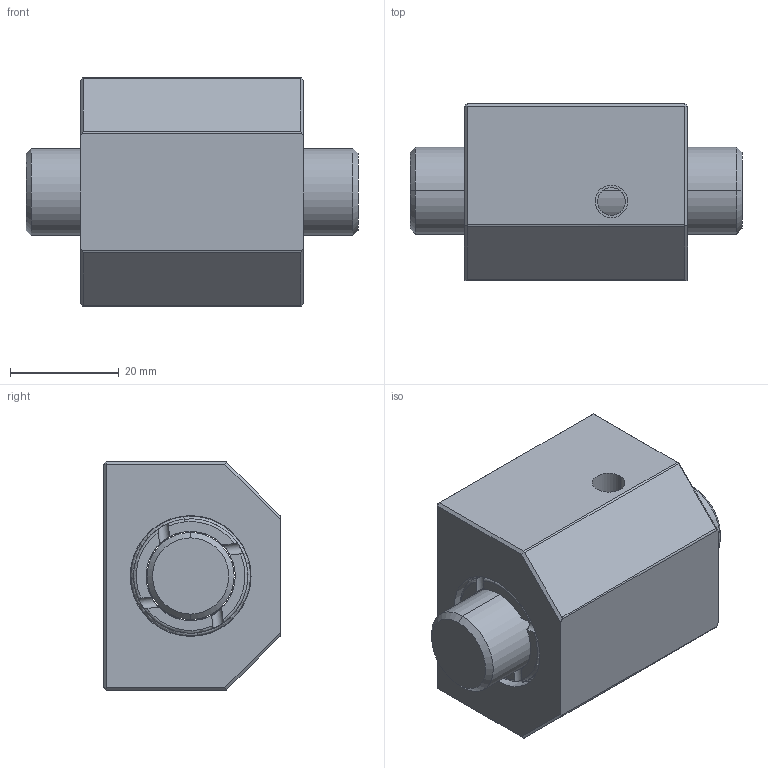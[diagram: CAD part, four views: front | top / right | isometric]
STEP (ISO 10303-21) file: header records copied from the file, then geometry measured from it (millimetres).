
FILE_DESCRIPTION (( 'STEP AP203' ), '1' );
FILE_NAME ('BNTL01605T3-C.STEP', '2020-06-18T01:37:52', ( '' ), ( '' ), 'SwSTEP 2.0', 'SolidWorks 2013', '' );
FILE_SCHEMA (( 'CONFIG_CONTROL_DESIGN' ));
Length unit declared in the file: millimetre
Products named in the file (1): BNTL01605T3-C
Bounding box: 61 x 32.5 x 42 mm (x, y, z)
Volume: 53541.7 mm3; surface area: 16410.6 mm2
Topology: 2 solids, 2 shells, 119 faces, 307 edges, 190 vertices
Faces by surface type: cylinder 50, plane 39, torus 18, cone 12
Entity records: 4676 total; most frequent: CARTESIAN_POINT 1827, ORIENTED_EDGE 590, DIRECTION 565, EDGE_CURVE 295, AXIS2_PLACEMENT_3D 226, VERTEX_POINT 190, EDGE_LOOP 133, FACE_OUTER_BOUND 119
